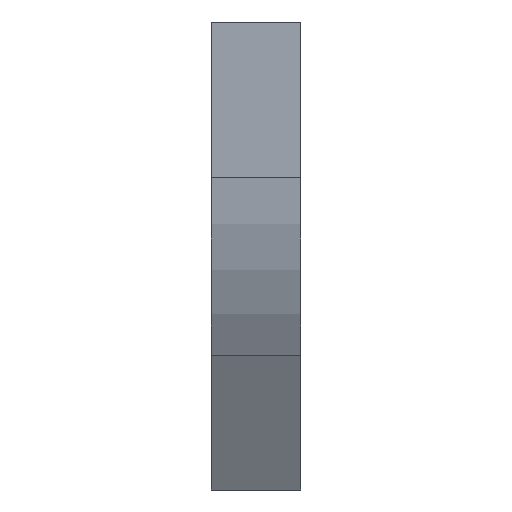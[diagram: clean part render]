
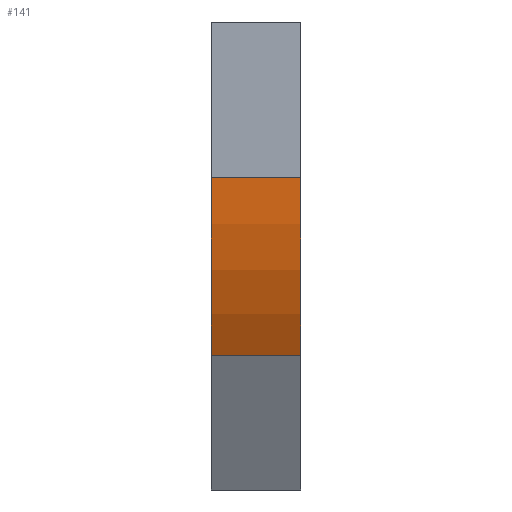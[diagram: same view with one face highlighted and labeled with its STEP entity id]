
A CAD part, left-side view. The second image highlights one B-rep face of the part: STEP entity #141.
In plain terms, the highlighted cylindrical face has radius 300 mm (diameter 600 mm), a partial arc.
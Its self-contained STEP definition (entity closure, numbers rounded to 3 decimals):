
#10 = VERTEX_POINT ( 'NONE', #1202 ) ;
#79 = EDGE_CURVE ( 'NONE', #293, #10, #342, .T. ) ;
#85 = CARTESIAN_POINT ( 'NONE',  ( 40.192, 0., -280.385 ) ) ;
#141 = ADVANCED_FACE ( 'NONE', ( #335 ), #452, .T. ) ;
#293 = VERTEX_POINT ( 'NONE', #712 ) ;
#335 = FACE_OUTER_BOUND ( 'NONE', #1447, .T. ) ;
#342 = LINE ( 'NONE', #1107, #1485 ) ;
#387 = CIRCLE ( 'NONE', #1386, 300. ) ;
#437 = ORIENTED_EDGE ( 'NONE', *, *, #79, .F. ) ;
#452 = CYLINDRICAL_SURFACE ( 'NONE', #1392, 300. ) ;
#456 = ORIENTED_EDGE ( 'NONE', *, *, #992, .F. ) ;
#613 = ORIENTED_EDGE ( 'NONE', *, *, #1451, .T. ) ;
#627 = DIRECTION ( 'NONE',  ( -1., 0., 0. ) ) ;
#712 = CARTESIAN_POINT ( 'NONE',  ( 0., 75., -130.385 ) ) ;
#757 = DIRECTION ( 'NONE',  ( 0., -1., 0. ) ) ;
#952 = VERTEX_POINT ( 'NONE', #1644 ) ;
#961 = DIRECTION ( 'NONE',  ( 0., -1., 0. ) ) ;
#970 = CARTESIAN_POINT ( 'NONE',  ( 300., 0., -130.385 ) ) ;
#971 = DIRECTION ( 'NONE',  ( -1., 0., 0. ) ) ;
#984 = DIRECTION ( 'NONE',  ( 0., -1., 0. ) ) ;
#992 = EDGE_CURVE ( 'NONE', #10, #952, #1646, .T. ) ;
#1034 = VECTOR ( 'NONE', #1612, 1000. ) ;
#1107 = CARTESIAN_POINT ( 'NONE',  ( 0., 0., -130.385 ) ) ;
#1118 = AXIS2_PLACEMENT_3D ( 'NONE', #1266, #757, #627 ) ;
#1149 = EDGE_CURVE ( 'NONE', #1188, #952, #1346, .T. ) ;
#1188 = VERTEX_POINT ( 'NONE', #1384 ) ;
#1202 = CARTESIAN_POINT ( 'NONE',  ( 0., 0., -130.385 ) ) ;
#1214 = CARTESIAN_POINT ( 'NONE',  ( 300., 75., -130.385 ) ) ;
#1227 = DIRECTION ( 'NONE',  ( 0., 0., -1. ) ) ;
#1266 = CARTESIAN_POINT ( 'NONE',  ( 300., 0., -130.385 ) ) ;
#1346 = LINE ( 'NONE', #85, #1034 ) ;
#1364 = DIRECTION ( 'NONE',  ( 0., -1., 0. ) ) ;
#1374 = ORIENTED_EDGE ( 'NONE', *, *, #1149, .T. ) ;
#1384 = CARTESIAN_POINT ( 'NONE',  ( 40.192, 75., -280.385 ) ) ;
#1386 = AXIS2_PLACEMENT_3D ( 'NONE', #1214, #961, #971 ) ;
#1392 = AXIS2_PLACEMENT_3D ( 'NONE', #970, #1364, #1227 ) ;
#1447 = EDGE_LOOP ( 'NONE', ( #456, #437, #613, #1374 ) ) ;
#1451 = EDGE_CURVE ( 'NONE', #293, #1188, #387, .T. ) ;
#1485 = VECTOR ( 'NONE', #984, 1000. ) ;
#1612 = DIRECTION ( 'NONE',  ( 0., -1., 0. ) ) ;
#1644 = CARTESIAN_POINT ( 'NONE',  ( 40.192, 0., -280.385 ) ) ;
#1646 = CIRCLE ( 'NONE', #1118, 300. ) ;
